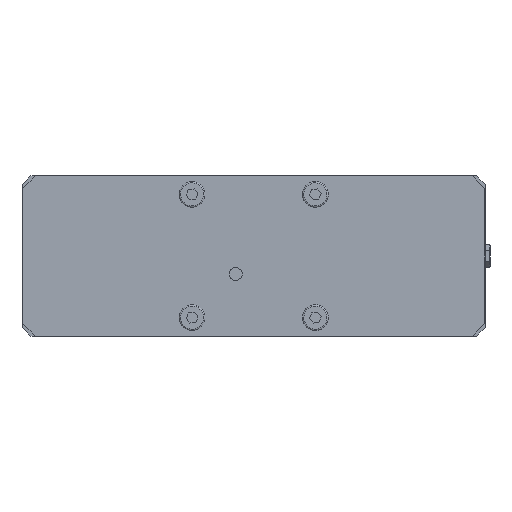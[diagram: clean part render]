
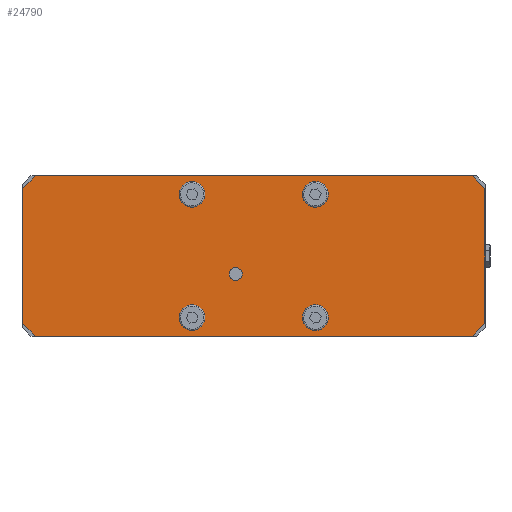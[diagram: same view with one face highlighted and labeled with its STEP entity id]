
A CAD part, front view. The second image highlights one B-rep face of the part: STEP entity #24790.
In plain terms, the highlighted planar face has unit normal (0, -1, 0).
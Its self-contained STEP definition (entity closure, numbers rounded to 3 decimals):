
#121 = VERTEX_POINT ( 'NONE', #361 ) ;
#147 = VERTEX_POINT ( 'NONE', #3884 ) ;
#361 = CARTESIAN_POINT ( 'NONE',  ( 170., 0., -62.5 ) ) ;
#380 = DIRECTION ( 'NONE',  ( 0.707, 0., 0.707 ) ) ;
#557 = EDGE_CURVE ( 'NONE', #21671, #21571, #927, .T. ) ;
#762 = ORIENTED_EDGE ( 'NONE', *, *, #30907, .T. ) ;
#798 = LINE ( 'NONE', #41045, #18974 ) ;
#927 = LINE ( 'NONE', #31235, #3021 ) ;
#983 = EDGE_CURVE ( 'NONE', #147, #147, #34429, .T. ) ;
#1154 = VERTEX_POINT ( 'NONE', #32338 ) ;
#1254 = VERTEX_POINT ( 'NONE', #5997 ) ;
#1537 = FACE_BOUND ( 'NONE', #5390, .T. ) ;
#2412 = FACE_OUTER_BOUND ( 'NONE', #6610, .T. ) ;
#2446 = EDGE_CURVE ( 'NONE', #33333, #1154, #20203, .T. ) ;
#2647 = CIRCLE ( 'NONE', #39159, 8. ) ;
#2873 = EDGE_CURVE ( 'NONE', #121, #11981, #23706, .T. ) ;
#3021 = VECTOR ( 'NONE', #24273, 1000. ) ;
#3884 = CARTESIAN_POINT ( 'NONE',  ( -56., 0., -48. ) ) ;
#4239 = CARTESIAN_POINT ( 'NONE',  ( -14., 0., -14. ) ) ;
#5025 = CARTESIAN_POINT ( 'NONE',  ( -48., 0., 48. ) ) ;
#5288 = DIRECTION ( 'NONE',  ( 0., 1., 0. ) ) ;
#5390 = EDGE_LOOP ( 'NONE', ( #27819 ) ) ;
#5573 = CARTESIAN_POINT ( 'NONE',  ( 180., 0., 62.5 ) ) ;
#5638 = LINE ( 'NONE', #36204, #35347 ) ;
#5779 = VERTEX_POINT ( 'NONE', #25564 ) ;
#5997 = CARTESIAN_POINT ( 'NONE',  ( -180., 0., 52.5 ) ) ;
#6204 = EDGE_CURVE ( 'NONE', #17189, #1254, #5638, .T. ) ;
#6610 = EDGE_LOOP ( 'NONE', ( #762, #18591, #19703, #26137, #28682, #34896, #12496, #42971 ) ) ;
#6697 = CARTESIAN_POINT ( 'NONE',  ( 48., 0., 48. ) ) ;
#8518 = DIRECTION ( 'NONE',  ( 0., 0., -1. ) ) ;
#8767 = DIRECTION ( 'NONE',  ( 0., 1., 0. ) ) ;
#10206 = VERTEX_POINT ( 'NONE', #23605 ) ;
#10433 = EDGE_CURVE ( 'NONE', #1254, #21671, #18430, .T. ) ;
#10680 = DIRECTION ( 'NONE',  ( 0., 0., -1. ) ) ;
#11671 = EDGE_LOOP ( 'NONE', ( #30627 ) ) ;
#11981 = VERTEX_POINT ( 'NONE', #43447 ) ;
#12149 = VECTOR ( 'NONE', #380, 1000. ) ;
#12346 = EDGE_CURVE ( 'NONE', #22367, #22367, #34512, .T. ) ;
#12496 = ORIENTED_EDGE ( 'NONE', *, *, #33548, .F. ) ;
#13523 = VERTEX_POINT ( 'NONE', #27286 ) ;
#13697 = DIRECTION ( 'NONE',  ( -1., 0., 0. ) ) ;
#13951 = CARTESIAN_POINT ( 'NONE',  ( 180., 0., 52.5 ) ) ;
#14429 = DIRECTION ( 'NONE',  ( 0., -1., 0. ) ) ;
#14851 = ORIENTED_EDGE ( 'NONE', *, *, #40463, .T. ) ;
#15259 = DIRECTION ( 'NONE',  ( 0., 0., 1. ) ) ;
#15710 = CARTESIAN_POINT ( 'NONE',  ( -170., 0., 62.5 ) ) ;
#15813 = CARTESIAN_POINT ( 'NONE',  ( -14., 0., -19. ) ) ;
#16716 = CARTESIAN_POINT ( 'NONE',  ( 180., 0., 52.5 ) ) ;
#17137 = CARTESIAN_POINT ( 'NONE',  ( 180., 0., -52.5 ) ) ;
#17189 = VERTEX_POINT ( 'NONE', #15710 ) ;
#18430 = LINE ( 'NONE', #38847, #38160 ) ;
#18591 = ORIENTED_EDGE ( 'NONE', *, *, #6204, .T. ) ;
#18662 = DIRECTION ( 'NONE',  ( 0., 0., -1. ) ) ;
#18974 = VECTOR ( 'NONE', #28500, 1000. ) ;
#19512 = ORIENTED_EDGE ( 'NONE', *, *, #12346, .F. ) ;
#19703 = ORIENTED_EDGE ( 'NONE', *, *, #10433, .T. ) ;
#20158 = DIRECTION ( 'NONE',  ( 0., 1., 0. ) ) ;
#20203 = LINE ( 'NONE', #16716, #22010 ) ;
#20236 = EDGE_LOOP ( 'NONE', ( #14851 ) ) ;
#21571 = VERTEX_POINT ( 'NONE', #37974 ) ;
#21671 = VERTEX_POINT ( 'NONE', #35407 ) ;
#22010 = VECTOR ( 'NONE', #32668, 1000. ) ;
#22141 = DIRECTION ( 'NONE',  ( 0., 0., -1. ) ) ;
#22367 = VERTEX_POINT ( 'NONE', #15813 ) ;
#23295 = AXIS2_PLACEMENT_3D ( 'NONE', #25731, #5288, #15259 ) ;
#23605 = CARTESIAN_POINT ( 'NONE',  ( 56., 0., 48. ) ) ;
#23681 = EDGE_CURVE ( 'NONE', #121, #21571, #798, .T. ) ;
#23706 = LINE ( 'NONE', #17137, #12149 ) ;
#24273 = DIRECTION ( 'NONE',  ( 0.707, 0., -0.707 ) ) ;
#24790 = ADVANCED_FACE ( 'NONE', ( #35829, #1537, #41764, #32493, #35141, #2412 ), #29004, .F. ) ;
#25422 = DIRECTION ( 'NONE',  ( -0.707, 0., -0.707 ) ) ;
#25564 = CARTESIAN_POINT ( 'NONE',  ( 48., 0., -56. ) ) ;
#25731 = CARTESIAN_POINT ( 'NONE',  ( 180., 0., -62.5 ) ) ;
#26137 = ORIENTED_EDGE ( 'NONE', *, *, #557, .T. ) ;
#27286 = CARTESIAN_POINT ( 'NONE',  ( -48., 0., 56. ) ) ;
#27333 = EDGE_LOOP ( 'NONE', ( #28222 ) ) ;
#27819 = ORIENTED_EDGE ( 'NONE', *, *, #36299, .T. ) ;
#28222 = ORIENTED_EDGE ( 'NONE', *, *, #42450, .T. ) ;
#28500 = DIRECTION ( 'NONE',  ( -1., 0., 0. ) ) ;
#28682 = ORIENTED_EDGE ( 'NONE', *, *, #23681, .F. ) ;
#28699 = DIRECTION ( 'NONE',  ( 0., 1., 0. ) ) ;
#29004 = PLANE ( 'NONE',  #23295 ) ;
#30529 = CARTESIAN_POINT ( 'NONE',  ( -48., 0., -48. ) ) ;
#30627 = ORIENTED_EDGE ( 'NONE', *, *, #983, .T. ) ;
#30743 = DIRECTION ( 'NONE',  ( 0., 1., 0. ) ) ;
#30907 = EDGE_CURVE ( 'NONE', #1154, #17189, #35681, .T. ) ;
#31152 = DIRECTION ( 'NONE',  ( 0., 0., 1. ) ) ;
#31235 = CARTESIAN_POINT ( 'NONE',  ( -170., 0., -62.5 ) ) ;
#31691 = AXIS2_PLACEMENT_3D ( 'NONE', #4239, #14429, #10680 ) ;
#32338 = CARTESIAN_POINT ( 'NONE',  ( 170., 0., 62.5 ) ) ;
#32348 = DIRECTION ( 'NONE',  ( -1., 0., 0. ) ) ;
#32431 = LINE ( 'NONE', #39085, #36933 ) ;
#32493 = FACE_BOUND ( 'NONE', #20236, .T. ) ;
#32668 = DIRECTION ( 'NONE',  ( -0.707, 0., 0.707 ) ) ;
#33333 = VERTEX_POINT ( 'NONE', #13951 ) ;
#33548 = EDGE_CURVE ( 'NONE', #33333, #11981, #32431, .T. ) ;
#34429 = CIRCLE ( 'NONE', #41493, 8. ) ;
#34512 = CIRCLE ( 'NONE', #31691, 5. ) ;
#34556 = EDGE_LOOP ( 'NONE', ( #19512 ) ) ;
#34896 = ORIENTED_EDGE ( 'NONE', *, *, #2873, .T. ) ;
#35009 = CIRCLE ( 'NONE', #41364, 8. ) ;
#35042 = CARTESIAN_POINT ( 'NONE',  ( 48., 0., -48. ) ) ;
#35141 = FACE_BOUND ( 'NONE', #34556, .T. ) ;
#35347 = VECTOR ( 'NONE', #25422, 1000. ) ;
#35407 = CARTESIAN_POINT ( 'NONE',  ( -180., 0., -52.5 ) ) ;
#35565 = AXIS2_PLACEMENT_3D ( 'NONE', #5025, #8767, #31152 ) ;
#35681 = LINE ( 'NONE', #5573, #37328 ) ;
#35829 = FACE_BOUND ( 'NONE', #27333, .T. ) ;
#36204 = CARTESIAN_POINT ( 'NONE',  ( -170., 0., 62.5 ) ) ;
#36299 = EDGE_CURVE ( 'NONE', #5779, #5779, #35009, .T. ) ;
#36933 = VECTOR ( 'NONE', #8518, 1000. ) ;
#37328 = VECTOR ( 'NONE', #32348, 1000. ) ;
#37974 = CARTESIAN_POINT ( 'NONE',  ( -170., 0., -62.5 ) ) ;
#38160 = VECTOR ( 'NONE', #18662, 1000. ) ;
#38847 = CARTESIAN_POINT ( 'NONE',  ( -180., 0., -62.5 ) ) ;
#39085 = CARTESIAN_POINT ( 'NONE',  ( 180., 0., -62.5 ) ) ;
#39159 = AXIS2_PLACEMENT_3D ( 'NONE', #6697, #20158, #40562 ) ;
#39802 = CIRCLE ( 'NONE', #35565, 8. ) ;
#40463 = EDGE_CURVE ( 'NONE', #13523, #13523, #39802, .T. ) ;
#40562 = DIRECTION ( 'NONE',  ( 1., 0., 0. ) ) ;
#41045 = CARTESIAN_POINT ( 'NONE',  ( 180., 0., -62.5 ) ) ;
#41364 = AXIS2_PLACEMENT_3D ( 'NONE', #35042, #28699, #22141 ) ;
#41493 = AXIS2_PLACEMENT_3D ( 'NONE', #30529, #30743, #13697 ) ;
#41764 = FACE_BOUND ( 'NONE', #11671, .T. ) ;
#42450 = EDGE_CURVE ( 'NONE', #10206, #10206, #2647, .T. ) ;
#42971 = ORIENTED_EDGE ( 'NONE', *, *, #2446, .T. ) ;
#43447 = CARTESIAN_POINT ( 'NONE',  ( 180., 0., -52.5 ) ) ;
